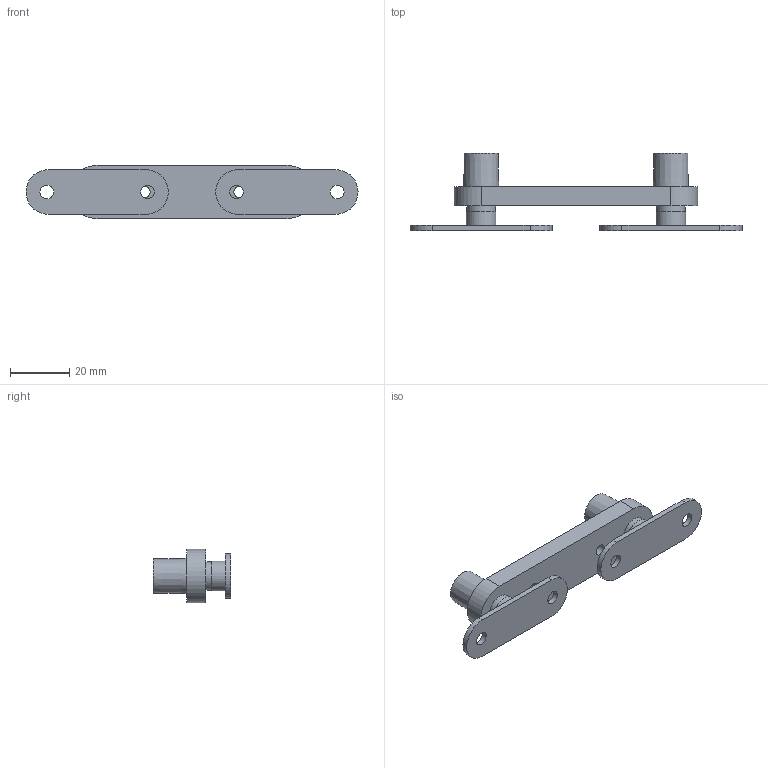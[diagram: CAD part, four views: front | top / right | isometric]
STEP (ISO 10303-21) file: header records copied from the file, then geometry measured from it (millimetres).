
FILE_DESCRIPTION( ( 'STEP AP214' ), '1' );
FILE_NAME( 'D:/Yug/2022/Sliding_&_Folding/WingLine_L/QC/9266219.stp', '2022-03-24T08:05:41', ( '' ), ( '' ), ' ', 'PARTsolutions', ' ' );
FILE_SCHEMA( ( 'AUTOMOTIVE_DESIGN { 1 0 10303 214 1 1 1 1 }' ) );
Length unit declared in the file: millimetre
Products named in the file (3): 9266219; _support_unit_2magnet_2; _counterplate
Assembly tree (3 placements, depth 2):
  9266219
    _support_unit_2magnet_2
    _counterplate  x2
Bounding box: 112 x 26 x 18 mm (x, y, z)
Volume: 14666.4 mm3; surface area: 8732.3 mm2
Topology: 3 solids, 3 shells, 44 faces, 84 edges, 56 vertices
Faces by surface type: plane 22, cylinder 20, cone 2
Full cylindrical faces by diameter (mm): 3.8 x2, 4.6 x4, 7.5 x2, 8 x2, 9.69 x2, 10 x2
Entity records: 1202 total; most frequent: DIRECTION 168, CARTESIAN_POINT 136, ORIENTED_EDGE 104, AXIS2_PLACEMENT_3D 76, EDGE_LOOP 68, EDGE_CURVE 52, FACE_OUTER_BOUND 48, VERTEX_POINT 44
